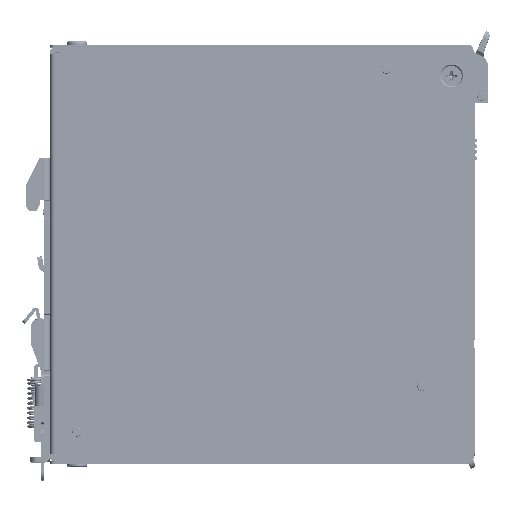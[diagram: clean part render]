
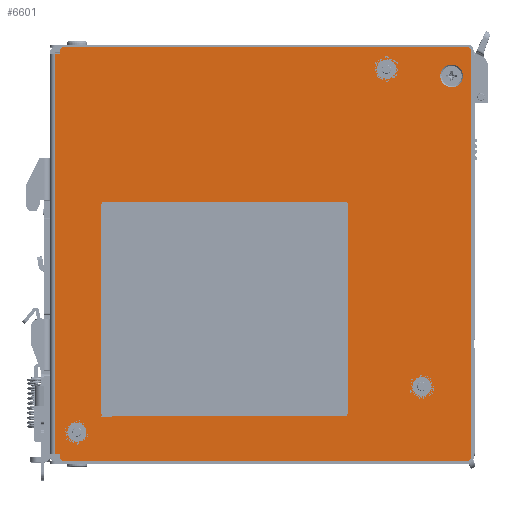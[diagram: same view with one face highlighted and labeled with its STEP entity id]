
A CAD part, top view. The second image highlights one B-rep face of the part: STEP entity #6601.
In plain terms, the highlighted planar face has unit normal (0, 0, 1).
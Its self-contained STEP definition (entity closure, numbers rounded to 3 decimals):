
#1258=DIRECTION('',(0.,-1.,0.));
#1259=VECTOR('',#1258,118.4);
#1260=CARTESIAN_POINT('',(1.5,59.2,0.));
#1261=LINE('',#1260,#1259);
#1294=CARTESIAN_POINT('',(123.5,-60.1,0.));
#1295=DIRECTION('',(0.,0.,-1.));
#1296=DIRECTION('',(1.,0.,0.));
#1297=AXIS2_PLACEMENT_3D('',#1294,#1295,#1296);
#1302=DIRECTION('',(-1.,0.,0.));
#1303=VECTOR('',#1302,119.5);
#1304=CARTESIAN_POINT('',(123.5,-61.2,0.));
#1305=LINE('',#1304,#1303);
#1309=CARTESIAN_POINT('',(4.,-60.2,0.));
#1310=DIRECTION('',(0.,0.,-1.));
#1311=DIRECTION('',(0.,-1.,0.));
#1312=AXIS2_PLACEMENT_3D('',#1309,#1310,#1311);
#1317=DIRECTION('',(0.,1.,0.));
#1318=VECTOR('',#1317,0.7);
#1319=CARTESIAN_POINT('',(3.,-60.2,0.));
#1320=LINE('',#1319,#1318);
#1324=CARTESIAN_POINT('',(2.7,-59.5,0.));
#1325=DIRECTION('',(0.,0.,1.));
#1326=DIRECTION('',(1.,0.,0.));
#1327=AXIS2_PLACEMENT_3D('',#1324,#1325,#1326);
#1332=DIRECTION('',(1.,0.,0.));
#1333=VECTOR('',#1332,1.5);
#1334=CARTESIAN_POINT('',(1.5,59.2,0.));
#1335=LINE('',#1334,#1333);
#1339=CARTESIAN_POINT('',(4.,60.2,0.));
#1340=DIRECTION('',(0.,0.,-1.));
#1341=DIRECTION('',(-1.,0.,0.));
#1342=AXIS2_PLACEMENT_3D('',#1339,#1340,#1341);
#1347=DIRECTION('',(1.,0.,0.));
#1348=VECTOR('',#1347,119.5);
#1349=CARTESIAN_POINT('',(4.,61.2,0.));
#1350=LINE('',#1349,#1348);
#1354=CARTESIAN_POINT('',(123.5,60.1,0.));
#1355=DIRECTION('',(0.,0.,-1.));
#1356=DIRECTION('',(0.,1.,0.));
#1357=AXIS2_PLACEMENT_3D('',#1354,#1355,#1356);
#1362=DIRECTION('',(0.,-1.,0.));
#1363=VECTOR('',#1362,98.5);
#1364=CARTESIAN_POINT('',(124.6,60.1,0.));
#1365=LINE('',#1364,#1363);
#1369=DIRECTION('',(0.,-1.,0.));
#1370=VECTOR('',#1369,21.7);
#1371=CARTESIAN_POINT('',(124.6,-38.4,0.));
#1372=LINE('',#1371,#1370);
#1376=CARTESIAN_POINT('',(118.9,52.7,0.));
#1377=DIRECTION('',(0.,0.,1.));
#1378=DIRECTION('',(-1.,0.,0.));
#1379=AXIS2_PLACEMENT_3D('',#1376,#1377,#1378);
#1384=CARTESIAN_POINT('',(118.9,52.7,0.));
#1385=DIRECTION('',(0.,0.,1.));
#1386=DIRECTION('',(1.,0.,0.));
#1387=AXIS2_PLACEMENT_3D('',#1384,#1385,#1386);
#1392=CARTESIAN_POINT('',(8.,-52.7,0.));
#1393=DIRECTION('',(0.,0.,1.));
#1394=DIRECTION('',(1.,0.,0.));
#1395=AXIS2_PLACEMENT_3D('',#1392,#1393,#1394);
#1400=CARTESIAN_POINT('',(8.,-52.7,0.));
#1401=DIRECTION('',(0.,0.,1.));
#1402=DIRECTION('',(-1.,0.,0.));
#1403=AXIS2_PLACEMENT_3D('',#1400,#1401,#1402);
#1408=CARTESIAN_POINT('',(99.6,54.7,0.));
#1409=DIRECTION('',(0.,0.,1.));
#1410=DIRECTION('',(1.,0.,0.));
#1411=AXIS2_PLACEMENT_3D('',#1408,#1409,#1410);
#1416=CARTESIAN_POINT('',(99.6,54.7,0.));
#1417=DIRECTION('',(0.,0.,1.));
#1418=DIRECTION('',(-1.,0.,0.));
#1419=AXIS2_PLACEMENT_3D('',#1416,#1417,#1418);
#1424=DIRECTION('',(0.,-1.,0.));
#1425=VECTOR('',#1424,20.);
#1426=CARTESIAN_POINT('',(15.,-9.7,0.));
#1427=LINE('',#1426,#1425);
#1431=DIRECTION('',(1.,0.,0.));
#1432=VECTOR('',#1431,0.2);
#1433=CARTESIAN_POINT('',(15.,-29.7,0.));
#1434=LINE('',#1433,#1432);
#1438=DIRECTION('',(0.,1.,0.));
#1439=VECTOR('',#1438,20.);
#1440=CARTESIAN_POINT('',(15.2,-29.7,0.));
#1441=LINE('',#1440,#1439);
#1445=DIRECTION('',(-1.,0.,0.));
#1446=VECTOR('',#1445,0.2);
#1447=CARTESIAN_POINT('',(15.2,-9.7,0.));
#1448=LINE('',#1447,#1446);
#1452=DIRECTION('',(0.,-1.,0.));
#1453=VECTOR('',#1452,3.5);
#1454=CARTESIAN_POINT('',(15.,-44.7,0.));
#1455=LINE('',#1454,#1453);
#1459=DIRECTION('',(1.,0.,0.));
#1460=VECTOR('',#1459,3.5);
#1461=CARTESIAN_POINT('',(15.,-48.2,0.));
#1462=LINE('',#1461,#1460);
#1466=DIRECTION('',(0.,1.,0.));
#1467=VECTOR('',#1466,0.2);
#1468=CARTESIAN_POINT('',(18.5,-48.2,0.));
#1469=LINE('',#1468,#1467);
#1473=DIRECTION('',(-1.,0.,0.));
#1474=VECTOR('',#1473,3.3);
#1475=CARTESIAN_POINT('',(18.5,-48.,0.));
#1476=LINE('',#1475,#1474);
#1480=DIRECTION('',(0.,1.,0.));
#1481=VECTOR('',#1480,3.3);
#1482=CARTESIAN_POINT('',(15.2,-48.,0.));
#1483=LINE('',#1482,#1481);
#1487=DIRECTION('',(-1.,0.,0.));
#1488=VECTOR('',#1487,0.2);
#1489=CARTESIAN_POINT('',(15.2,-44.7,0.));
#1490=LINE('',#1489,#1488);
#1494=CARTESIAN_POINT('',(110.1,-39.2,0.));
#1495=DIRECTION('',(0.,0.,1.));
#1496=DIRECTION('',(1.,0.,0.));
#1497=AXIS2_PLACEMENT_3D('',#1494,#1495,#1496);
#1502=CARTESIAN_POINT('',(110.1,-39.2,0.));
#1503=DIRECTION('',(0.,0.,1.));
#1504=DIRECTION('',(-1.,0.,0.));
#1505=AXIS2_PLACEMENT_3D('',#1502,#1503,#1504);
#1698=DIRECTION('',(0.,-1.,0.));
#1699=VECTOR('',#1698,1.);
#1700=CARTESIAN_POINT('',(3.,60.2,0.));
#1701=LINE('',#1700,#1699);
#1712=DIRECTION('',(1.,0.,0.));
#1713=VECTOR('',#1712,1.2);
#1714=CARTESIAN_POINT('',(1.5,-59.2,0.));
#1715=LINE('',#1714,#1713);
#5210=CARTESIAN_POINT('',(1.5,-59.2,0.));
#5211=VERTEX_POINT('',#5210);
#5212=CARTESIAN_POINT('',(1.5,59.2,0.));
#5213=VERTEX_POINT('',#5212);
#5214=CARTESIAN_POINT('',(3.,59.2,0.));
#5215=VERTEX_POINT('',#5214);
#5218=CARTESIAN_POINT('',(124.6,-60.1,0.));
#5219=CARTESIAN_POINT('',(123.5,-61.2,0.));
#5220=VERTEX_POINT('',#5218);
#5221=VERTEX_POINT('',#5219);
#5222=CARTESIAN_POINT('',(4.,-61.2,0.));
#5223=VERTEX_POINT('',#5222);
#5224=CARTESIAN_POINT('',(3.,-60.2,0.));
#5225=VERTEX_POINT('',#5224);
#5226=CARTESIAN_POINT('',(3.,-59.5,0.));
#5227=VERTEX_POINT('',#5226);
#5228=CARTESIAN_POINT('',(2.7,-59.2,0.));
#5229=VERTEX_POINT('',#5228);
#5230=CARTESIAN_POINT('',(3.,60.2,0.));
#5231=VERTEX_POINT('',#5230);
#5232=CARTESIAN_POINT('',(4.,61.2,0.));
#5233=VERTEX_POINT('',#5232);
#5234=CARTESIAN_POINT('',(123.5,61.2,0.));
#5235=VERTEX_POINT('',#5234);
#5236=CARTESIAN_POINT('',(124.6,60.1,0.));
#5237=VERTEX_POINT('',#5236);
#5238=CARTESIAN_POINT('',(124.6,-38.4,0.));
#5239=VERTEX_POINT('',#5238);
#5240=CARTESIAN_POINT('',(115.55,52.7,0.));
#5241=CARTESIAN_POINT('',(122.25,52.7,0.));
#5242=VERTEX_POINT('',#5240);
#5243=VERTEX_POINT('',#5241);
#5244=CARTESIAN_POINT('',(10.8,-52.7,0.));
#5245=CARTESIAN_POINT('',(5.2,-52.7,0.));
#5246=VERTEX_POINT('',#5244);
#5247=VERTEX_POINT('',#5245);
#5248=CARTESIAN_POINT('',(102.4,54.7,0.));
#5249=CARTESIAN_POINT('',(96.8,54.7,0.));
#5250=VERTEX_POINT('',#5248);
#5251=VERTEX_POINT('',#5249);
#5252=CARTESIAN_POINT('',(15.,-9.7,0.));
#5253=CARTESIAN_POINT('',(15.,-29.7,0.));
#5254=VERTEX_POINT('',#5252);
#5255=VERTEX_POINT('',#5253);
#5256=CARTESIAN_POINT('',(15.2,-29.7,0.));
#5257=VERTEX_POINT('',#5256);
#5258=CARTESIAN_POINT('',(15.2,-9.7,0.));
#5259=VERTEX_POINT('',#5258);
#5260=CARTESIAN_POINT('',(15.,-44.7,0.));
#5261=CARTESIAN_POINT('',(15.,-48.2,0.));
#5262=VERTEX_POINT('',#5260);
#5263=VERTEX_POINT('',#5261);
#5264=CARTESIAN_POINT('',(18.5,-48.2,0.));
#5265=VERTEX_POINT('',#5264);
#5266=CARTESIAN_POINT('',(18.5,-48.,0.));
#5267=VERTEX_POINT('',#5266);
#5268=CARTESIAN_POINT('',(15.2,-48.,0.));
#5269=VERTEX_POINT('',#5268);
#5270=CARTESIAN_POINT('',(15.2,-44.7,0.));
#5271=VERTEX_POINT('',#5270);
#5272=CARTESIAN_POINT('',(112.9,-39.2,0.));
#5273=CARTESIAN_POINT('',(107.3,-39.2,0.));
#5274=VERTEX_POINT('',#5272);
#5275=VERTEX_POINT('',#5273);
#6520=CARTESIAN_POINT('',(0.,0.,0.));
#6521=DIRECTION('',(0.,0.,1.));
#6522=DIRECTION('',(1.,0.,0.));
#6523=AXIS2_PLACEMENT_3D('',#6520,#6521,#6522);
#6524=PLANE('',#6523);
#6526=ORIENTED_EDGE('',*,*,#6525,.T.);
#6528=ORIENTED_EDGE('',*,*,#6527,.T.);
#6530=ORIENTED_EDGE('',*,*,#6529,.T.);
#6532=ORIENTED_EDGE('',*,*,#6531,.T.);
#6534=ORIENTED_EDGE('',*,*,#6533,.T.);
#6536=ORIENTED_EDGE('',*,*,#6535,.F.);
#6537=ORIENTED_EDGE('',*,*,#6487,.F.);
#6538=ORIENTED_EDGE('',*,*,#6510,.T.);
#6540=ORIENTED_EDGE('',*,*,#6539,.F.);
#6542=ORIENTED_EDGE('',*,*,#6541,.T.);
#6544=ORIENTED_EDGE('',*,*,#6543,.T.);
#6546=ORIENTED_EDGE('',*,*,#6545,.T.);
#6548=ORIENTED_EDGE('',*,*,#6547,.T.);
#6550=ORIENTED_EDGE('',*,*,#6549,.T.);
#6551=EDGE_LOOP('',(#6526,#6528,#6530,#6532,#6534,#6536,#6537,#6538,#6540,#6542,
#6544,#6546,#6548,#6550));
#6552=FACE_OUTER_BOUND('',#6551,.F.);
#6554=ORIENTED_EDGE('',*,*,#6553,.T.);
#6556=ORIENTED_EDGE('',*,*,#6555,.T.);
#6557=EDGE_LOOP('',(#6554,#6556));
#6558=FACE_BOUND('',#6557,.F.);
#6560=ORIENTED_EDGE('',*,*,#6559,.T.);
#6562=ORIENTED_EDGE('',*,*,#6561,.T.);
#6563=EDGE_LOOP('',(#6560,#6562));
#6564=FACE_BOUND('',#6563,.F.);
#6566=ORIENTED_EDGE('',*,*,#6565,.T.);
#6568=ORIENTED_EDGE('',*,*,#6567,.T.);
#6569=EDGE_LOOP('',(#6566,#6568));
#6570=FACE_BOUND('',#6569,.F.);
#6572=ORIENTED_EDGE('',*,*,#6571,.T.);
#6574=ORIENTED_EDGE('',*,*,#6573,.T.);
#6576=ORIENTED_EDGE('',*,*,#6575,.T.);
#6578=ORIENTED_EDGE('',*,*,#6577,.T.);
#6579=EDGE_LOOP('',(#6572,#6574,#6576,#6578));
#6580=FACE_BOUND('',#6579,.F.);
#6582=ORIENTED_EDGE('',*,*,#6581,.T.);
#6584=ORIENTED_EDGE('',*,*,#6583,.T.);
#6586=ORIENTED_EDGE('',*,*,#6585,.T.);
#6588=ORIENTED_EDGE('',*,*,#6587,.T.);
#6590=ORIENTED_EDGE('',*,*,#6589,.T.);
#6592=ORIENTED_EDGE('',*,*,#6591,.T.);
#6593=EDGE_LOOP('',(#6582,#6584,#6586,#6588,#6590,#6592));
#6594=FACE_BOUND('',#6593,.F.);
#6596=ORIENTED_EDGE('',*,*,#6595,.T.);
#6598=ORIENTED_EDGE('',*,*,#6597,.T.);
#6599=EDGE_LOOP('',(#6596,#6598));
#6600=FACE_BOUND('',#6599,.F.);
#6601=ADVANCED_FACE('',(#6552,#6558,#6564,#6570,#6580,#6594,#6600),#6524,.T.);
#1298=CIRCLE('',#1297,1.1);
#1313=CIRCLE('',#1312,1.);
#1328=CIRCLE('',#1327,0.3);
#1343=CIRCLE('',#1342,1.);
#1358=CIRCLE('',#1357,1.1);
#1380=CIRCLE('',#1379,3.35);
#1388=CIRCLE('',#1387,3.35);
#1396=CIRCLE('',#1395,2.8);
#1404=CIRCLE('',#1403,2.8);
#1412=CIRCLE('',#1411,2.8);
#1420=CIRCLE('',#1419,2.8);
#1498=CIRCLE('',#1497,2.8);
#1506=CIRCLE('',#1505,2.8);
#6487=EDGE_CURVE('',#5213,#5211,#1261,.T.);
#6510=EDGE_CURVE('',#5213,#5215,#1335,.T.);
#6525=EDGE_CURVE('',#5220,#5221,#1298,.T.);
#6527=EDGE_CURVE('',#5221,#5223,#1305,.T.);
#6529=EDGE_CURVE('',#5223,#5225,#1313,.T.);
#6531=EDGE_CURVE('',#5225,#5227,#1320,.T.);
#6533=EDGE_CURVE('',#5227,#5229,#1328,.T.);
#6535=EDGE_CURVE('',#5211,#5229,#1715,.T.);
#6539=EDGE_CURVE('',#5231,#5215,#1701,.T.);
#6541=EDGE_CURVE('',#5231,#5233,#1343,.T.);
#6543=EDGE_CURVE('',#5233,#5235,#1350,.T.);
#6545=EDGE_CURVE('',#5235,#5237,#1358,.T.);
#6547=EDGE_CURVE('',#5237,#5239,#1365,.T.);
#6549=EDGE_CURVE('',#5239,#5220,#1372,.T.);
#6553=EDGE_CURVE('',#5242,#5243,#1380,.T.);
#6555=EDGE_CURVE('',#5243,#5242,#1388,.T.);
#6559=EDGE_CURVE('',#5246,#5247,#1396,.T.);
#6561=EDGE_CURVE('',#5247,#5246,#1404,.T.);
#6565=EDGE_CURVE('',#5250,#5251,#1412,.T.);
#6567=EDGE_CURVE('',#5251,#5250,#1420,.T.);
#6571=EDGE_CURVE('',#5254,#5255,#1427,.T.);
#6573=EDGE_CURVE('',#5255,#5257,#1434,.T.);
#6575=EDGE_CURVE('',#5257,#5259,#1441,.T.);
#6577=EDGE_CURVE('',#5259,#5254,#1448,.T.);
#6581=EDGE_CURVE('',#5262,#5263,#1455,.T.);
#6583=EDGE_CURVE('',#5263,#5265,#1462,.T.);
#6585=EDGE_CURVE('',#5265,#5267,#1469,.T.);
#6587=EDGE_CURVE('',#5267,#5269,#1476,.T.);
#6589=EDGE_CURVE('',#5269,#5271,#1483,.T.);
#6591=EDGE_CURVE('',#5271,#5262,#1490,.T.);
#6595=EDGE_CURVE('',#5274,#5275,#1498,.T.);
#6597=EDGE_CURVE('',#5275,#5274,#1506,.T.);
